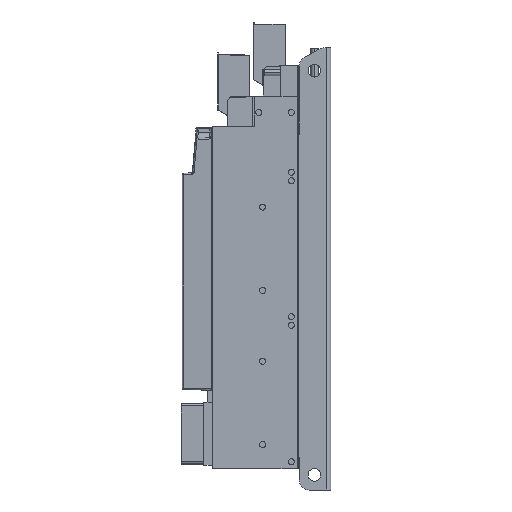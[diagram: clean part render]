
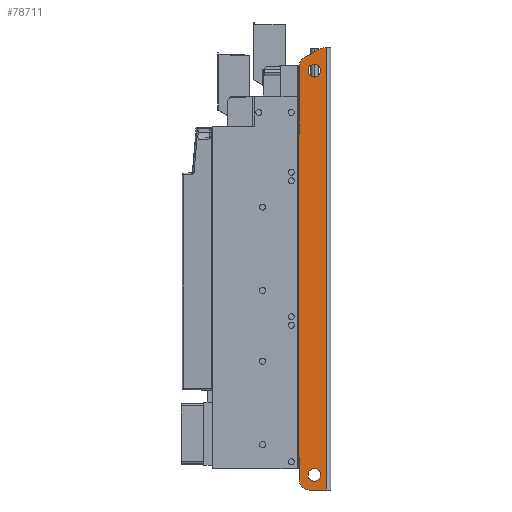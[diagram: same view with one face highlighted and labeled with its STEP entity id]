
A CAD part, left-side view. The second image highlights one B-rep face of the part: STEP entity #78711.
In plain terms, the highlighted planar face has unit normal (-1, 0, 0).
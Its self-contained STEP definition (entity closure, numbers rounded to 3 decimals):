
#174 = DIRECTION ( 'NONE',  ( 0., 0., 1. ) ) ;
#1450 = VERTEX_POINT ( 'NONE', #65221 ) ;
#1708 = LINE ( 'NONE', #45991, #55833 ) ;
#2336 = ORIENTED_EDGE ( 'NONE', *, *, #29934, .F. ) ;
#2519 = EDGE_CURVE ( 'NONE', #6309, #88874, #3350, .T. ) ;
#3350 = LINE ( 'NONE', #25499, #28992 ) ;
#3623 = LINE ( 'NONE', #93100, #90302 ) ;
#4126 = DIRECTION ( 'NONE',  ( 0., 0., 1. ) ) ;
#4585 = DIRECTION ( 'NONE',  ( 0., 0., -1. ) ) ;
#4742 = CARTESIAN_POINT ( 'NONE',  ( -163., 25., 0. ) ) ;
#5190 = CARTESIAN_POINT ( 'NONE',  ( -163., 25., -43.9 ) ) ;
#5480 = VERTEX_POINT ( 'NONE', #32599 ) ;
#6309 = VERTEX_POINT ( 'NONE', #4742 ) ;
#6491 = EDGE_LOOP ( 'NONE', ( #43319, #33027, #92563, #23323, #10452, #11367, #43157, #90299, #53440, #11262, #20273, #2336 ) ) ;
#6813 = CIRCLE ( 'NONE', #26855, 12.5 ) ;
#6902 = DIRECTION ( 'NONE',  ( 0., -1., 0. ) ) ;
#7150 = EDGE_CURVE ( 'NONE', #94814, #10329, #36313, .T. ) ;
#7406 = LINE ( 'NONE', #21397, #39944 ) ;
#7662 = VERTEX_POINT ( 'NONE', #9942 ) ;
#8527 = DIRECTION ( 'NONE',  ( -1., 0., 0. ) ) ;
#9041 = EDGE_CURVE ( 'NONE', #1450, #42662, #49173, .T. ) ;
#9942 = CARTESIAN_POINT ( 'NONE',  ( -163., -5., 778.6 ) ) ;
#10233 = AXIS2_PLACEMENT_3D ( 'NONE', #48741, #12159, #87675 ) ;
#10329 = VERTEX_POINT ( 'NONE', #87937 ) ;
#10452 = ORIENTED_EDGE ( 'NONE', *, *, #9041, .T. ) ;
#10847 = CARTESIAN_POINT ( 'NONE',  ( -163., 25., 585. ) ) ;
#11262 = ORIENTED_EDGE ( 'NONE', *, *, #32057, .T. ) ;
#11367 = ORIENTED_EDGE ( 'NONE', *, *, #54907, .T. ) ;
#12123 = VERTEX_POINT ( 'NONE', #63078 ) ;
#12159 = DIRECTION ( 'NONE',  ( -1., 0., 0. ) ) ;
#12567 = CARTESIAN_POINT ( 'NONE',  ( -163., -23.359, 791.1 ) ) ;
#16193 = EDGE_CURVE ( 'NONE', #66561, #24318, #95201, .T. ) ;
#16313 = AXIS2_PLACEMENT_3D ( 'NONE', #12567, #41934, #77105 ) ;
#16398 = VERTEX_POINT ( 'NONE', #71577 ) ;
#17845 = VERTEX_POINT ( 'NONE', #39264 ) ;
#17858 = EDGE_CURVE ( 'NONE', #12123, #6309, #3623, .T. ) ;
#18948 = DIRECTION ( 'NONE',  ( 0., 0., 1. ) ) ;
#19480 = CARTESIAN_POINT ( 'NONE',  ( -163., 25., -63.9 ) ) ;
#20273 = ORIENTED_EDGE ( 'NONE', *, *, #16193, .F. ) ;
#20729 = CARTESIAN_POINT ( 'NONE',  ( -163., -29., -63.9 ) ) ;
#21214 = AXIS2_PLACEMENT_3D ( 'NONE', #47835, #77194, #18948 ) ;
#21397 = CARTESIAN_POINT ( 'NONE',  ( -163., 27., 536. ) ) ;
#23323 = ORIENTED_EDGE ( 'NONE', *, *, #31276, .T. ) ;
#24273 = CARTESIAN_POINT ( 'NONE',  ( -163., 15., 792.047 ) ) ;
#24318 = VERTEX_POINT ( 'NONE', #29702 ) ;
#25499 = CARTESIAN_POINT ( 'NONE',  ( -163., 25., -63.9 ) ) ;
#25818 = CIRCLE ( 'NONE', #21214, 12.5 ) ;
#26855 = AXIS2_PLACEMENT_3D ( 'NONE', #40536, #47253, #91049 ) ;
#28592 = LINE ( 'NONE', #19480, #29432 ) ;
#28992 = VECTOR ( 'NONE', #84210, 1000. ) ;
#29319 = DIRECTION ( 'NONE',  ( 0., -1., 0. ) ) ;
#29432 = VECTOR ( 'NONE', #6902, 1000. ) ;
#29702 = CARTESIAN_POINT ( 'NONE',  ( -163., 25., 640.5 ) ) ;
#29934 = EDGE_CURVE ( 'NONE', #12123, #66561, #7406, .T. ) ;
#30015 = CIRCLE ( 'NONE', #36174, 20. ) ;
#31097 = DIRECTION ( 'NONE',  ( 0., 0.866, -0.5 ) ) ;
#31276 = EDGE_CURVE ( 'NONE', #70254, #1450, #28592, .T. ) ;
#32057 = EDGE_CURVE ( 'NONE', #17845, #24318, #48393, .T. ) ;
#32599 = CARTESIAN_POINT ( 'NONE',  ( -163., -5., -46.4 ) ) ;
#32992 = DIRECTION ( 'NONE',  ( 0., -1., 0. ) ) ;
#33027 = ORIENTED_EDGE ( 'NONE', *, *, #2519, .T. ) ;
#34241 = CARTESIAN_POINT ( 'NONE',  ( -163., 5., -63.9 ) ) ;
#35539 = ORIENTED_EDGE ( 'NONE', *, *, #44868, .F. ) ;
#36174 = AXIS2_PLACEMENT_3D ( 'NONE', #54623, #77267, #69550 ) ;
#36313 = CIRCLE ( 'NONE', #16313, 20. ) ;
#37141 = EDGE_CURVE ( 'NONE', #88874, #70254, #71746, .T. ) ;
#37918 = ORIENTED_EDGE ( 'NONE', *, *, #87715, .F. ) ;
#38393 = PLANE ( 'NONE',  #84930 ) ;
#39264 = CARTESIAN_POINT ( 'NONE',  ( -163., 25., 774.727 ) ) ;
#39639 = DIRECTION ( 'NONE',  ( 0., 1., 0. ) ) ;
#39682 = CARTESIAN_POINT ( 'NONE',  ( -163., -29., 811.1 ) ) ;
#39944 = VECTOR ( 'NONE', #174, 1000. ) ;
#40132 = LINE ( 'NONE', #89701, #63358 ) ;
#40417 = EDGE_CURVE ( 'NONE', #90440, #5480, #25818, .T. ) ;
#40536 = CARTESIAN_POINT ( 'NONE',  ( -163., -5., 766.1 ) ) ;
#40968 = ORIENTED_EDGE ( 'NONE', *, *, #40417, .F. ) ;
#41154 = CARTESIAN_POINT ( 'NONE',  ( -163., 27., 640.5 ) ) ;
#41934 = DIRECTION ( 'NONE',  ( -1., 0., 0. ) ) ;
#42662 = VERTEX_POINT ( 'NONE', #39682 ) ;
#43157 = ORIENTED_EDGE ( 'NONE', *, *, #7150, .T. ) ;
#43319 = ORIENTED_EDGE ( 'NONE', *, *, #17858, .T. ) ;
#44667 = FACE_BOUND ( 'NONE', #56491, .T. ) ;
#44868 = EDGE_CURVE ( 'NONE', #5480, #90440, #80107, .T. ) ;
#45603 = CARTESIAN_POINT ( 'NONE',  ( -163., -23.359, 811.1 ) ) ;
#45991 = CARTESIAN_POINT ( 'NONE',  ( -163., -18., 811.1 ) ) ;
#47253 = DIRECTION ( 'NONE',  ( -1., 0., 0. ) ) ;
#47626 = EDGE_CURVE ( 'NONE', #10329, #74513, #1708, .T. ) ;
#47835 = CARTESIAN_POINT ( 'NONE',  ( -163., -5., -33.9 ) ) ;
#47960 = DIRECTION ( 'NONE',  ( -1., 0., 0. ) ) ;
#48393 = LINE ( 'NONE', #10847, #58706 ) ;
#48741 = CARTESIAN_POINT ( 'NONE',  ( -163., 5., -43.9 ) ) ;
#49142 = EDGE_CURVE ( 'NONE', #16398, #7662, #6813, .T. ) ;
#49173 = LINE ( 'NONE', #20729, #86628 ) ;
#49838 = DIRECTION ( 'NONE',  ( -1., 0., 0. ) ) ;
#51483 = CARTESIAN_POINT ( 'NONE',  ( -163., -5., -21.4 ) ) ;
#52356 = FACE_OUTER_BOUND ( 'NONE', #6491, .T. ) ;
#53440 = ORIENTED_EDGE ( 'NONE', *, *, #66361, .T. ) ;
#54623 = CARTESIAN_POINT ( 'NONE',  ( -163., 5., 774.727 ) ) ;
#54784 = VECTOR ( 'NONE', #29319, 1000. ) ;
#54907 = EDGE_CURVE ( 'NONE', #42662, #94814, #40132, .T. ) ;
#55833 = VECTOR ( 'NONE', #31097, 1000. ) ;
#56026 = ORIENTED_EDGE ( 'NONE', *, *, #49142, .F. ) ;
#56491 = EDGE_LOOP ( 'NONE', ( #40968, #35539 ) ) ;
#58706 = VECTOR ( 'NONE', #4585, 1000. ) ;
#62350 = CARTESIAN_POINT ( 'NONE',  ( -163., -5., -33.9 ) ) ;
#63078 = CARTESIAN_POINT ( 'NONE',  ( -163., 27., 0. ) ) ;
#63358 = VECTOR ( 'NONE', #39639, 1000. ) ;
#64678 = AXIS2_PLACEMENT_3D ( 'NONE', #62350, #47960, #4126 ) ;
#65221 = CARTESIAN_POINT ( 'NONE',  ( -163., -29., -63.9 ) ) ;
#66361 = EDGE_CURVE ( 'NONE', #74513, #17845, #30015, .T. ) ;
#66561 = VERTEX_POINT ( 'NONE', #41154 ) ;
#67886 = EDGE_LOOP ( 'NONE', ( #37918, #56026 ) ) ;
#69550 = DIRECTION ( 'NONE',  ( 0., 0., 1. ) ) ;
#70254 = VERTEX_POINT ( 'NONE', #34241 ) ;
#71577 = CARTESIAN_POINT ( 'NONE',  ( -163., -5., 753.6 ) ) ;
#71746 = CIRCLE ( 'NONE', #10233, 20. ) ;
#71867 = AXIS2_PLACEMENT_3D ( 'NONE', #85968, #49838, #71966 ) ;
#71966 = DIRECTION ( 'NONE',  ( 0., 0., 1. ) ) ;
#74513 = VERTEX_POINT ( 'NONE', #24273 ) ;
#76479 = CIRCLE ( 'NONE', #71867, 12.5 ) ;
#77105 = DIRECTION ( 'NONE',  ( 0., 0., 1. ) ) ;
#77194 = DIRECTION ( 'NONE',  ( -1., 0., 0. ) ) ;
#77267 = DIRECTION ( 'NONE',  ( -1., 0., 0. ) ) ;
#78711 = ADVANCED_FACE ( 'NONE', ( #52356, #44667, #88454 ), #38393, .T. ) ;
#80107 = CIRCLE ( 'NONE', #64678, 12.5 ) ;
#81246 = DIRECTION ( 'NONE',  ( 0., 0., 1. ) ) ;
#84210 = DIRECTION ( 'NONE',  ( 0., 0., -1. ) ) ;
#84930 = AXIS2_PLACEMENT_3D ( 'NONE', #87990, #8527, #81246 ) ;
#85968 = CARTESIAN_POINT ( 'NONE',  ( -163., -5., 766.1 ) ) ;
#86612 = CARTESIAN_POINT ( 'NONE',  ( -163., 27., 640.5 ) ) ;
#86628 = VECTOR ( 'NONE', #93876, 1000. ) ;
#87675 = DIRECTION ( 'NONE',  ( 0., 0., 1. ) ) ;
#87715 = EDGE_CURVE ( 'NONE', #7662, #16398, #76479, .T. ) ;
#87937 = CARTESIAN_POINT ( 'NONE',  ( -163., -13.359, 808.421 ) ) ;
#87990 = CARTESIAN_POINT ( 'NONE',  ( -163., 27., 536. ) ) ;
#88454 = FACE_BOUND ( 'NONE', #67886, .T. ) ;
#88874 = VERTEX_POINT ( 'NONE', #5190 ) ;
#89701 = CARTESIAN_POINT ( 'NONE',  ( -163., 25., 811.1 ) ) ;
#90299 = ORIENTED_EDGE ( 'NONE', *, *, #47626, .T. ) ;
#90302 = VECTOR ( 'NONE', #32992, 1000. ) ;
#90440 = VERTEX_POINT ( 'NONE', #51483 ) ;
#91049 = DIRECTION ( 'NONE',  ( 0., 0., 1. ) ) ;
#92563 = ORIENTED_EDGE ( 'NONE', *, *, #37141, .T. ) ;
#93100 = CARTESIAN_POINT ( 'NONE',  ( -163., 27., 0. ) ) ;
#93876 = DIRECTION ( 'NONE',  ( 0., 0., 1. ) ) ;
#94814 = VERTEX_POINT ( 'NONE', #45603 ) ;
#95201 = LINE ( 'NONE', #86612, #54784 ) ;
